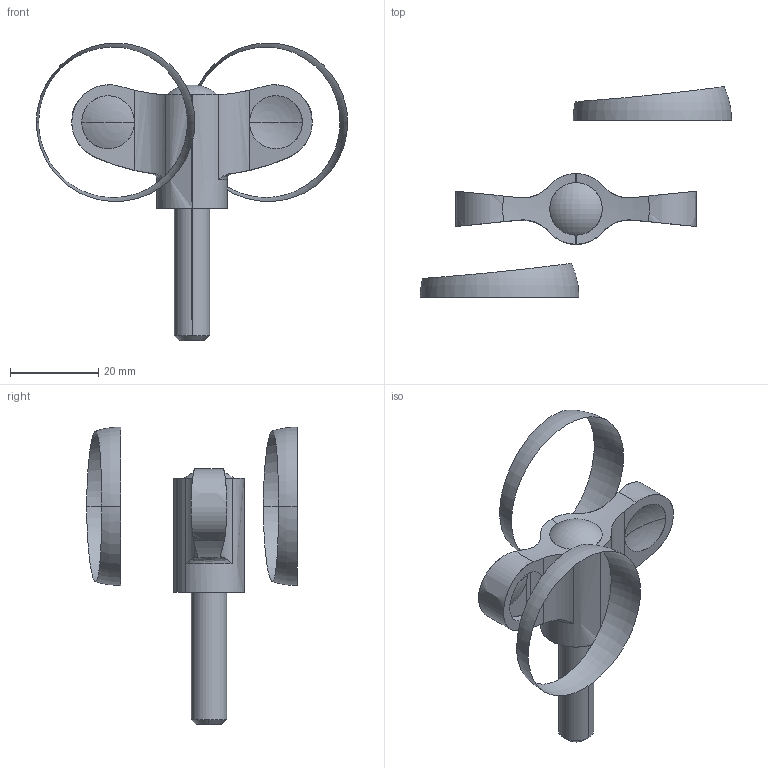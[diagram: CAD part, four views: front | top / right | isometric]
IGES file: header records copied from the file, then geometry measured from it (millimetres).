
Start section: SolidWorks IGES file using analytic representation for surfaces
Global section: file name: X:\11_SW2020-Inv2020\00_全2021-11新製品まで\e\EWN55X30SUS-OG\ewn55x30sus-og.IGS; native system: SolidWorks 2020; preprocessor: SolidWorks 2020; author: ImaoCorp; date: 211025.112224; units: millimetre
Bounding box: 70.49 x 47.69 x 67.47 mm (x, y, z)
Surface area: 5237.8 mm2 (no closed solid volume)
Topology: 0 solids, 0 shells, 36 faces, 760 edges, 760 vertices
Faces by surface type: revolution 22, bspline 14
